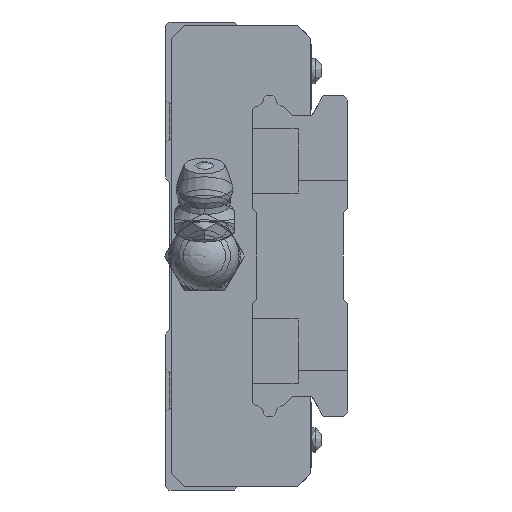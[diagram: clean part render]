
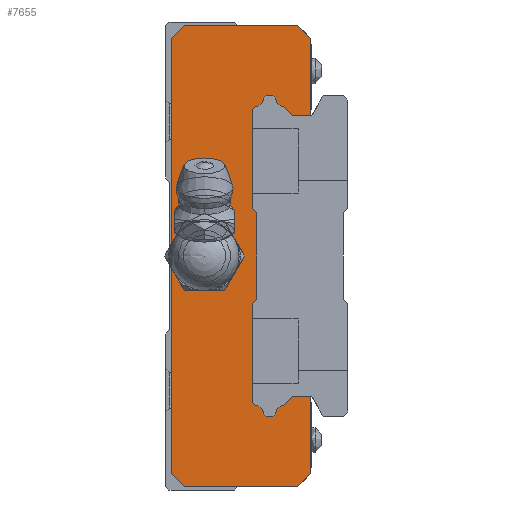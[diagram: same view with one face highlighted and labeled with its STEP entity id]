
A CAD part, left-side view. The second image highlights one B-rep face of the part: STEP entity #7655.
In plain terms, the highlighted planar face has unit normal (-1, 0, 0).
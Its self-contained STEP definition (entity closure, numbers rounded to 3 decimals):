
#85=LINE('',#11992,#449);
#91=LINE('',#12005,#455);
#94=LINE('',#12013,#458);
#95=LINE('',#12015,#459);
#96=LINE('',#12017,#460);
#97=LINE('',#12019,#461);
#98=LINE('',#12021,#462);
#99=LINE('',#12023,#463);
#100=LINE('',#12025,#464);
#101=LINE('',#12027,#465);
#102=LINE('',#12028,#466);
#103=LINE('',#12030,#467);
#104=LINE('',#12034,#468);
#105=LINE('',#12036,#469);
#106=LINE('',#12038,#470);
#107=LINE('',#12042,#471);
#108=LINE('',#12044,#472);
#109=LINE('',#12046,#473);
#110=LINE('',#12048,#474);
#111=LINE('',#12050,#475);
#112=LINE('',#12052,#476);
#113=LINE('',#12054,#477);
#114=LINE('',#12058,#478);
#115=LINE('',#12060,#479);
#116=LINE('',#12062,#480);
#117=LINE('',#12066,#481);
#449=VECTOR('',#9400,1000.);
#455=VECTOR('',#9408,1000.);
#458=VECTOR('',#9415,1000.);
#459=VECTOR('',#9416,1000.);
#460=VECTOR('',#9417,1000.);
#461=VECTOR('',#9418,1000.);
#462=VECTOR('',#9419,1000.);
#463=VECTOR('',#9420,1000.);
#464=VECTOR('',#9421,1000.);
#465=VECTOR('',#9422,1000.);
#466=VECTOR('',#9423,1000.);
#467=VECTOR('',#9424,1000.);
#468=VECTOR('',#9427,1000.);
#469=VECTOR('',#9428,1000.);
#470=VECTOR('',#9429,1000.);
#471=VECTOR('',#9432,1000.);
#472=VECTOR('',#9433,1000.);
#473=VECTOR('',#9434,1000.);
#474=VECTOR('',#9435,1000.);
#475=VECTOR('',#9436,1000.);
#476=VECTOR('',#9437,1000.);
#477=VECTOR('',#9438,1000.);
#478=VECTOR('',#9441,1000.);
#479=VECTOR('',#9442,1000.);
#480=VECTOR('',#9443,1000.);
#481=VECTOR('',#9446,1000.);
#800=PLANE('',#8245);
#1305=CIRCLE('',#8246,3.);
#1306=CIRCLE('',#8247,1.19);
#1307=CIRCLE('',#8248,1.19);
#1308=CIRCLE('',#8249,1.19);
#1309=CIRCLE('',#8250,1.19);
#1971=ORIENTED_EDGE('',*,*,#3713,.T.);
#1972=ORIENTED_EDGE('',*,*,#3714,.T.);
#1973=ORIENTED_EDGE('',*,*,#3704,.F.);
#1974=ORIENTED_EDGE('',*,*,#3715,.F.);
#1975=ORIENTED_EDGE('',*,*,#3716,.F.);
#1976=ORIENTED_EDGE('',*,*,#3717,.F.);
#1977=ORIENTED_EDGE('',*,*,#3718,.F.);
#1978=ORIENTED_EDGE('',*,*,#3719,.F.);
#1979=ORIENTED_EDGE('',*,*,#3720,.F.);
#1980=ORIENTED_EDGE('',*,*,#3721,.F.);
#1981=ORIENTED_EDGE('',*,*,#3710,.F.);
#1982=ORIENTED_EDGE('',*,*,#3722,.T.);
#1983=ORIENTED_EDGE('',*,*,#3723,.T.);
#1984=ORIENTED_EDGE('',*,*,#3724,.F.);
#1985=ORIENTED_EDGE('',*,*,#3725,.T.);
#1986=ORIENTED_EDGE('',*,*,#3726,.T.);
#1987=ORIENTED_EDGE('',*,*,#3727,.T.);
#1988=ORIENTED_EDGE('',*,*,#3728,.F.);
#1989=ORIENTED_EDGE('',*,*,#3729,.T.);
#1990=ORIENTED_EDGE('',*,*,#3730,.T.);
#1991=ORIENTED_EDGE('',*,*,#3731,.T.);
#1992=ORIENTED_EDGE('',*,*,#3732,.T.);
#1993=ORIENTED_EDGE('',*,*,#3733,.T.);
#1994=ORIENTED_EDGE('',*,*,#3734,.T.);
#1995=ORIENTED_EDGE('',*,*,#3735,.T.);
#1996=ORIENTED_EDGE('',*,*,#3736,.F.);
#1997=ORIENTED_EDGE('',*,*,#3737,.T.);
#1998=ORIENTED_EDGE('',*,*,#3738,.T.);
#1999=ORIENTED_EDGE('',*,*,#3739,.T.);
#2000=ORIENTED_EDGE('',*,*,#3740,.F.);
#2001=ORIENTED_EDGE('',*,*,#3741,.T.);
#3704=EDGE_CURVE('',#4589,#4587,#85,.T.);
#3710=EDGE_CURVE('',#4594,#4596,#91,.T.);
#3713=EDGE_CURVE('',#4598,#4598,#1305,.T.);
#3714=EDGE_CURVE('',#4599,#4587,#94,.T.);
#3715=EDGE_CURVE('',#4600,#4589,#95,.T.);
#3716=EDGE_CURVE('',#4601,#4600,#96,.T.);
#3717=EDGE_CURVE('',#4602,#4601,#97,.T.);
#3718=EDGE_CURVE('',#4603,#4602,#98,.T.);
#3719=EDGE_CURVE('',#4604,#4603,#99,.T.);
#3720=EDGE_CURVE('',#4605,#4604,#100,.T.);
#3721=EDGE_CURVE('',#4596,#4605,#101,.T.);
#3722=EDGE_CURVE('',#4594,#4606,#102,.T.);
#3723=EDGE_CURVE('',#4606,#4607,#103,.T.);
#3724=EDGE_CURVE('',#4608,#4607,#1306,.T.);
#3725=EDGE_CURVE('',#4608,#4609,#104,.T.);
#3726=EDGE_CURVE('',#4609,#4610,#105,.T.);
#3727=EDGE_CURVE('',#4610,#4611,#106,.T.);
#3728=EDGE_CURVE('',#4612,#4611,#1307,.T.);
#3729=EDGE_CURVE('',#4612,#4613,#107,.T.);
#3730=EDGE_CURVE('',#4613,#4614,#108,.T.);
#3731=EDGE_CURVE('',#4614,#4615,#109,.T.);
#3732=EDGE_CURVE('',#4615,#4616,#110,.T.);
#3733=EDGE_CURVE('',#4616,#4617,#111,.T.);
#3734=EDGE_CURVE('',#4617,#4618,#112,.T.);
#3735=EDGE_CURVE('',#4618,#4619,#113,.T.);
#3736=EDGE_CURVE('',#4620,#4619,#1308,.T.);
#3737=EDGE_CURVE('',#4620,#4621,#114,.T.);
#3738=EDGE_CURVE('',#4621,#4622,#115,.T.);
#3739=EDGE_CURVE('',#4622,#4623,#116,.T.);
#3740=EDGE_CURVE('',#4624,#4623,#1309,.T.);
#3741=EDGE_CURVE('',#4624,#4599,#117,.T.);
#4587=VERTEX_POINT('',#11987);
#4589=VERTEX_POINT('',#11991);
#4594=VERTEX_POINT('',#12003);
#4596=VERTEX_POINT('',#12006);
#4598=VERTEX_POINT('',#12012);
#4599=VERTEX_POINT('',#12014);
#4600=VERTEX_POINT('',#12016);
#4601=VERTEX_POINT('',#12018);
#4602=VERTEX_POINT('',#12020);
#4603=VERTEX_POINT('',#12022);
#4604=VERTEX_POINT('',#12024);
#4605=VERTEX_POINT('',#12026);
#4606=VERTEX_POINT('',#12029);
#4607=VERTEX_POINT('',#12031);
#4608=VERTEX_POINT('',#12033);
#4609=VERTEX_POINT('',#12035);
#4610=VERTEX_POINT('',#12037);
#4611=VERTEX_POINT('',#12039);
#4612=VERTEX_POINT('',#12041);
#4613=VERTEX_POINT('',#12043);
#4614=VERTEX_POINT('',#12045);
#4615=VERTEX_POINT('',#12047);
#4616=VERTEX_POINT('',#12049);
#4617=VERTEX_POINT('',#12051);
#4618=VERTEX_POINT('',#12053);
#4619=VERTEX_POINT('',#12055);
#4620=VERTEX_POINT('',#12057);
#4621=VERTEX_POINT('',#12059);
#4622=VERTEX_POINT('',#12061);
#4623=VERTEX_POINT('',#12063);
#4624=VERTEX_POINT('',#12065);
#5379=EDGE_LOOP('',(#1971));
#5380=EDGE_LOOP('',(#1972,#1973,#1974,#1975,#1976,#1977,#1978,#1979,#1980,
#1981,#1982,#1983,#1984,#1985,#1986,#1987,#1988,#1989,#1990,#1991,#1992,
#1993,#1994,#1995,#1996,#1997,#1998,#1999,#2000,#2001));
#6510=FACE_BOUND('',#5379,.T.);
#6511=FACE_BOUND('',#5380,.T.);
#7655=ADVANCED_FACE('',(#6510,#6511),#800,.F.);
#8245=AXIS2_PLACEMENT_3D('',#12010,#9411,#9412);
#8246=AXIS2_PLACEMENT_3D('',#12011,#9413,#9414);
#8247=AXIS2_PLACEMENT_3D('',#12032,#9425,#9426);
#8248=AXIS2_PLACEMENT_3D('',#12040,#9430,#9431);
#8249=AXIS2_PLACEMENT_3D('',#12056,#9439,#9440);
#8250=AXIS2_PLACEMENT_3D('',#12064,#9444,#9445);
#9400=DIRECTION('',(0.,0.,-1.));
#9408=DIRECTION('',(0.,0.,-1.));
#9411=DIRECTION('',(1.,0.,0.));
#9412=DIRECTION('',(0.,0.,-1.));
#9413=DIRECTION('',(1.,0.,0.));
#9414=DIRECTION('',(0.,0.,-1.));
#9415=DIRECTION('',(0.,-1.,0.));
#9416=DIRECTION('',(0.,-0.707,-0.707));
#9417=DIRECTION('',(0.,-1.,0.));
#9418=DIRECTION('',(0.,-0.707,0.707));
#9419=DIRECTION('',(0.,0.,1.));
#9420=DIRECTION('',(0.,0.707,0.707));
#9421=DIRECTION('',(0.,1.,0.));
#9422=DIRECTION('',(0.,0.707,-0.707));
#9423=DIRECTION('',(0.,1.,0.));
#9424=DIRECTION('',(0.,0.707,-0.707));
#9425=DIRECTION('',(1.,0.,0.));
#9426=DIRECTION('',(0.,0.,-1.));
#9427=DIRECTION('',(0.,0.707,-0.707));
#9428=DIRECTION('',(0.,1.,0.));
#9429=DIRECTION('',(0.,0.707,0.707));
#9430=DIRECTION('',(1.,0.,0.));
#9431=DIRECTION('',(0.,0.,-1.));
#9432=DIRECTION('',(0.,0.707,0.707));
#9433=DIRECTION('',(0.,0.,1.));
#9434=DIRECTION('',(0.,-0.707,0.707));
#9435=DIRECTION('',(0.,0.,1.));
#9436=DIRECTION('',(0.,0.707,0.707));
#9437=DIRECTION('',(0.,0.,1.));
#9438=DIRECTION('',(0.,-0.707,0.707));
#9439=DIRECTION('',(1.,0.,0.));
#9440=DIRECTION('',(0.,0.,-1.));
#9441=DIRECTION('',(0.,-0.707,0.707));
#9442=DIRECTION('',(0.,-1.,0.));
#9443=DIRECTION('',(0.,-0.707,-0.707));
#9444=DIRECTION('',(1.,0.,0.));
#9445=DIRECTION('',(0.,0.,-1.));
#9446=DIRECTION('',(0.,-0.707,-0.707));
#11987=CARTESIAN_POINT('',(-28.6,1.31,16.2));
#11991=CARTESIAN_POINT('',(-28.6,1.31,25.14));
#11992=CARTESIAN_POINT('',(-28.6,1.31,25.14));
#12003=CARTESIAN_POINT('',(-28.6,1.31,-16.2));
#12005=CARTESIAN_POINT('',(-28.6,1.31,25.14));
#12006=CARTESIAN_POINT('',(-28.6,1.31,-25.14));
#12010=CARTESIAN_POINT('',(-28.6,0.,0.));
#12011=CARTESIAN_POINT('',(-28.6,13.5,0.));
#12012=CARTESIAN_POINT('',(-28.6,13.5,-3.));
#12013=CARTESIAN_POINT('',(-28.6,3.32,16.2));
#12014=CARTESIAN_POINT('',(-28.6,3.32,16.2));
#12015=CARTESIAN_POINT('',(-28.6,2.81,26.64));
#12016=CARTESIAN_POINT('',(-28.6,2.81,26.64));
#12017=CARTESIAN_POINT('',(-28.6,15.85,26.64));
#12018=CARTESIAN_POINT('',(-28.6,15.85,26.64));
#12019=CARTESIAN_POINT('',(-28.6,17.35,25.14));
#12020=CARTESIAN_POINT('',(-28.6,17.35,25.14));
#12021=CARTESIAN_POINT('',(-28.6,17.35,-25.14));
#12022=CARTESIAN_POINT('',(-28.6,17.35,-25.14));
#12023=CARTESIAN_POINT('',(-28.6,15.85,-26.64));
#12024=CARTESIAN_POINT('',(-28.6,15.85,-26.64));
#12025=CARTESIAN_POINT('',(-28.6,2.81,-26.64));
#12026=CARTESIAN_POINT('',(-28.6,2.81,-26.64));
#12027=CARTESIAN_POINT('',(-28.6,1.31,-25.14));
#12028=CARTESIAN_POINT('',(-28.6,1.117,-16.2));
#12029=CARTESIAN_POINT('',(-28.6,3.32,-16.2));
#12030=CARTESIAN_POINT('',(-28.6,3.32,-16.2));
#12031=CARTESIAN_POINT('',(-28.6,4.276,-17.156));
#12032=CARTESIAN_POINT('',(-28.6,4.153,-18.34));
#12033=CARTESIAN_POINT('',(-28.6,5.337,-18.217));
#12034=CARTESIAN_POINT('',(-28.6,5.337,-18.217));
#12035=CARTESIAN_POINT('',(-28.6,5.62,-18.5));
#12036=CARTESIAN_POINT('',(-28.6,5.62,-18.5));
#12037=CARTESIAN_POINT('',(-28.6,6.385,-18.5));
#12038=CARTESIAN_POINT('',(-28.6,6.385,-18.5));
#12039=CARTESIAN_POINT('',(-28.6,6.663,-18.222));
#12040=CARTESIAN_POINT('',(-28.6,7.847,-18.34));
#12041=CARTESIAN_POINT('',(-28.6,7.729,-17.156));
#12042=CARTESIAN_POINT('',(-28.6,7.729,-17.156));
#12043=CARTESIAN_POINT('',(-28.6,8.,-16.885));
#12044=CARTESIAN_POINT('',(-28.6,8.,-16.885));
#12045=CARTESIAN_POINT('',(-28.6,8.,-5.5));
#12046=CARTESIAN_POINT('',(-28.6,8.,-5.5));
#12047=CARTESIAN_POINT('',(-28.6,7.5,-5.));
#12048=CARTESIAN_POINT('',(-28.6,7.5,-5.));
#12049=CARTESIAN_POINT('',(-28.6,7.5,5.));
#12050=CARTESIAN_POINT('',(-28.6,7.5,5.));
#12051=CARTESIAN_POINT('',(-28.6,8.,5.5));
#12052=CARTESIAN_POINT('',(-28.6,8.,5.5));
#12053=CARTESIAN_POINT('',(-28.6,8.,16.885));
#12054=CARTESIAN_POINT('',(-28.6,8.,16.885));
#12055=CARTESIAN_POINT('',(-28.6,7.729,17.156));
#12056=CARTESIAN_POINT('',(-28.6,7.847,18.34));
#12057=CARTESIAN_POINT('',(-28.6,6.663,18.222));
#12058=CARTESIAN_POINT('',(-28.6,6.663,18.222));
#12059=CARTESIAN_POINT('',(-28.6,6.385,18.5));
#12060=CARTESIAN_POINT('',(-28.6,6.385,18.5));
#12061=CARTESIAN_POINT('',(-28.6,5.62,18.5));
#12062=CARTESIAN_POINT('',(-28.6,5.62,18.5));
#12063=CARTESIAN_POINT('',(-28.6,5.337,18.217));
#12064=CARTESIAN_POINT('',(-28.6,4.153,18.34));
#12065=CARTESIAN_POINT('',(-28.6,4.276,17.156));
#12066=CARTESIAN_POINT('',(-28.6,4.276,17.156));
